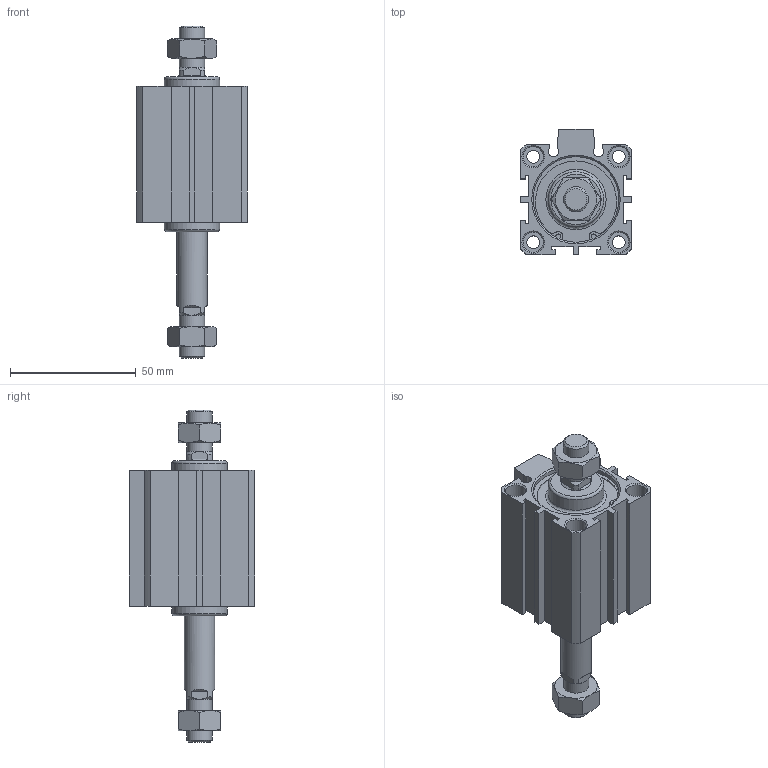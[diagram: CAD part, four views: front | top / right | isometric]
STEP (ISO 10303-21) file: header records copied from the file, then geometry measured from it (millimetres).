
FILE_DESCRIPTION((''),'2;1');
FILE_NAME('I:\3D電子目錄\氣缸\JDD\JDD-B\JDD32-B\JDD32x30-B.stp','2007-02-09T16:40:55',('662F206'),(''),'Autodesk Inventor 10','Autodesk Inventor 10','');
FILE_SCHEMA(('AUTOMOTIVE_DESIGN { 1 0 10303 214 1 1 1 1 }'));
Length unit declared in the file: millimetre
Products named in the file (3): JDD32-B; R 形環 35
Assembly tree (3 placements, depth 2):
  JDD32-B
    JDD32-B
    R 形環 35  x2
Bounding box: 44 x 50 x 132 mm (x, y, z)
Volume: 100615.4 mm3; surface area: 29007.2 mm2
Topology: 3 solids, 3 shells, 207 faces, 489 edges, 314 vertices
Faces by surface type: plane 112, cylinder 53, cone 38, bspline 2, torus 2
Full cylindrical faces by diameter (mm): 1.9 x4, 2.2 x2, 5.1 x4, 8 x8, 10 x4, 12 x1, 22 x2, 34 x4, 36 x2
Entity records: 5397 total; most frequent: CARTESIAN_POINT 1081, DIRECTION 894, ORIENTED_EDGE 802, EDGE_CURVE 401, AXIS2_PLACEMENT_3D 346, VERTEX_POINT 287, EDGE_LOOP 284, VECTOR 202
